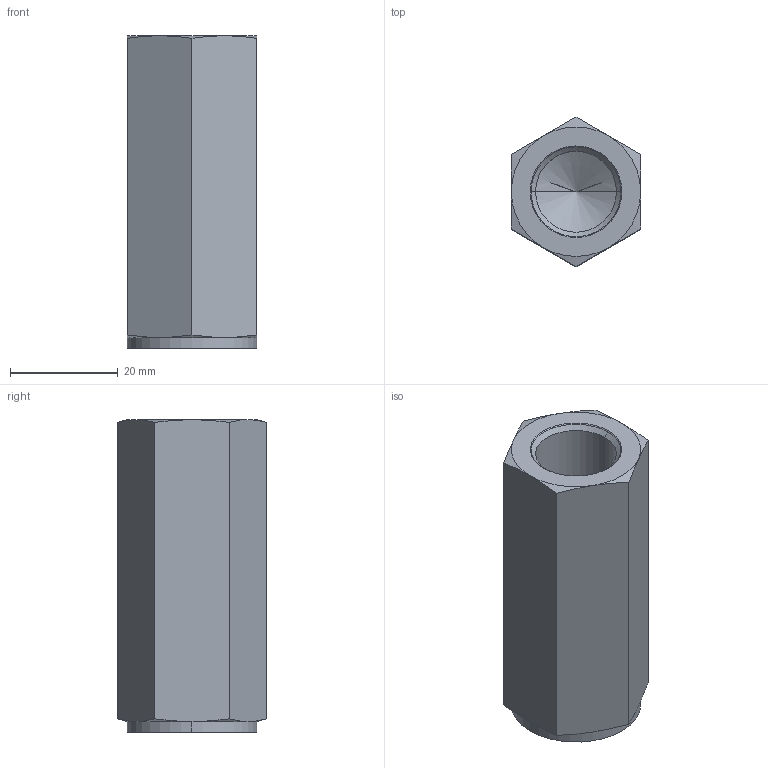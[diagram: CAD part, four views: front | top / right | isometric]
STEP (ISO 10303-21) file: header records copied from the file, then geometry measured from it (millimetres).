
FILE_DESCRIPTION((''),'2;1');
FILE_NAME('VJ3_08_G1','2021-06-02T',('l.soukupova'),(''),'PRO/ENGINEER BY PARAMETRIC TECHNOLOGY CORPORATION, 2015440','PRO/ENGINEER BY PARAMETRIC TECHNOLOGY CORPORATION, 2015440','');
FILE_SCHEMA(('AUTOMOTIVE_DESIGN { 1 0 10303 214 1 1 1 1 }'));
Length unit declared in the file: millimetre
Products named in the file (1): VJ3_08_G1
Bounding box: 24 x 27.71 x 58 mm (x, y, z)
Volume: 22964.6 mm3; surface area: 8516.2 mm2
Topology: 1 solids, 3 shells, 40 faces, 114 edges, 87 vertices
Faces by surface type: cone 20, plane 10, cylinder 10
Entity records: 1922 total; most frequent: CARTESIAN_POINT 477, DIRECTION 212, ORIENTED_EDGE 164, PRESENTATION_STYLE_ASSIGNMENT 122, STYLED_ITEM 122, CURVE_STYLE 119, EDGE_CURVE 86, AXIS2_PLACEMENT_3D 83
